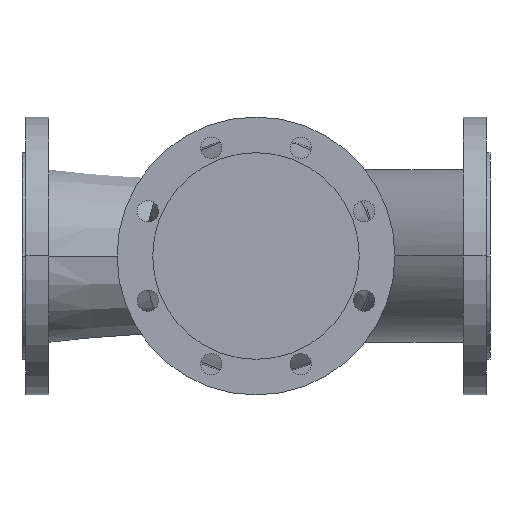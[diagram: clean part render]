
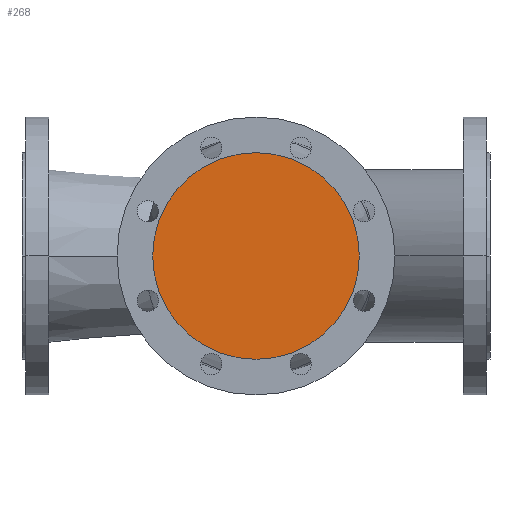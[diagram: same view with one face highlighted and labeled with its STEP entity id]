
A CAD part, front view. The second image highlights one B-rep face of the part: STEP entity #268.
In plain terms, the highlighted planar face has unit normal (0, -1, 0).
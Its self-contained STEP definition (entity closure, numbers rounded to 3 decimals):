
#268 = ADVANCED_FACE( '', ( #736 ), #737, .T. );
#736 = FACE_OUTER_BOUND( '', #1344, .T. );
#737 = PLANE( '', #1345 );
#1344 = EDGE_LOOP( '', ( #2772, #2773 ) );
#1345 = AXIS2_PLACEMENT_3D( '', #2774, #2775, #2776 );
#2772 = ORIENTED_EDGE( '', *, *, #3832, .F. );
#2773 = ORIENTED_EDGE( '', *, *, #4181, .F. );
#2774 = CARTESIAN_POINT( '', ( 293., -210., 0. ) );
#2775 = DIRECTION( '', ( 0., -1., 0. ) );
#2776 = DIRECTION( '', ( -1., 0., 0. ) );
#3832 = EDGE_CURVE( '', #4557, #4560, #4561, .T. );
#4181 = EDGE_CURVE( '', #4560, #4557, #5133, .T. );
#4557 = VERTEX_POINT( '', #5771 );
#4560 = VERTEX_POINT( '', #5775 );
#4561 = CIRCLE( '', #5776, 106. );
#5133 = CIRCLE( '', #6832, 106. );
#5771 = CARTESIAN_POINT( '', ( 346., -210., 0. ) );
#5775 = CARTESIAN_POINT( '', ( 134., -210., 0. ) );
#5776 = AXIS2_PLACEMENT_3D( '', #7639, #7640, #7641 );
#6832 = AXIS2_PLACEMENT_3D( '', #8349, #8350, #8351 );
#7639 = CARTESIAN_POINT( '', ( 240., -210., 0. ) );
#7640 = DIRECTION( '', ( 0., 1., 0. ) );
#7641 = DIRECTION( '', ( 1., 0., 0. ) );
#8349 = CARTESIAN_POINT( '', ( 240., -210., 0. ) );
#8350 = DIRECTION( '', ( 0., 1., 0. ) );
#8351 = DIRECTION( '', ( 1., 0., 0. ) );
